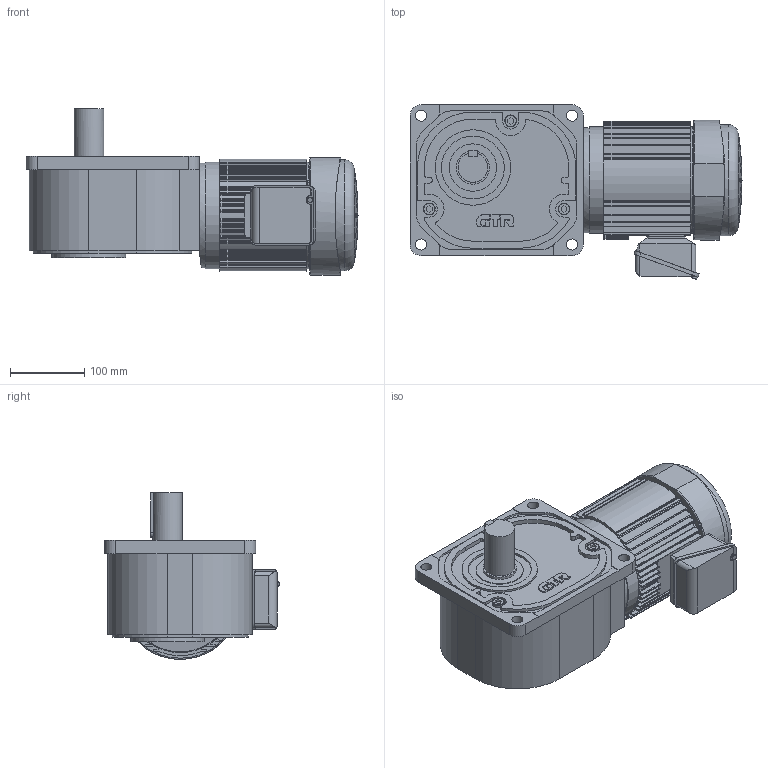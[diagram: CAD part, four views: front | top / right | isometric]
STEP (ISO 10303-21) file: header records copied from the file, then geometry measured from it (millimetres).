
FILE_DESCRIPTION( ( 'STEP AP203' ), ' ' );
FILE_NAME( 'p:/temp/worker_3/2972_348/app_90_12017041202065751502746260eae72_000000_00_00_000000/format_1/FF40L5N-IPB075NTN.stp', '2017-04-12T00:06:59', ( '' ), ( '' ), ' ', 'PARTsolutions', ' ' );
FILE_SCHEMA( ( 'CONFIG_CONTROL_DESIGN' ) );
Length unit declared in the file: millimetre
Products named in the file (7): FF40L5N-IPB075NTN; _FF40L; HI_T075; HI_075P; _Brake lead wire; _T-BOX075; _KEY 40
Assembly tree (6 placements, depth 2):
  FF40L5N-IPB075NTN
    _FF40L
    HI_T075
    HI_075P
    _Brake lead wire
    _T-BOX075
    _KEY 40
Bounding box: 448.5 x 236.02 x 224.79 mm (x, y, z)
Volume: 9233931.9 mm3; surface area: 553364.5 mm2
Topology: 6 solids, 6 shells, 815 faces, 2129 edges, 1439 vertices
Faces by surface type: cylinder 435, plane 367, torus 12, sphere 1
Full cylindrical faces by diameter (mm): 2 x4, 5 x84, 6.4 x1, 8.4 x4, 15 x4, 16 x3, 27 x1, 40 x1, 45 x1, 64 x1, 85 x1, 100 x1, 102 x1, 141 x1, 142 x1, 144 x2, 150 x1
Entity records: 29404 total; most frequent: CARTESIAN_POINT 9653, DIRECTION 4222, ORIENTED_EDGE 3802, EDGE_CURVE 1901, AXIS2_PLACEMENT_3D 1612, VERTEX_POINT 1337, EDGE_LOOP 1061, LINE 998
